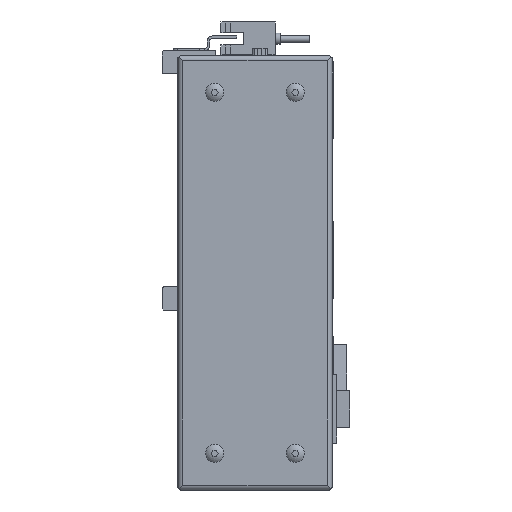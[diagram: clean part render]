
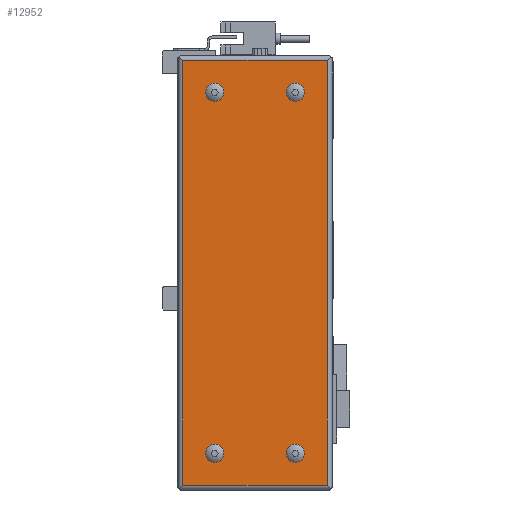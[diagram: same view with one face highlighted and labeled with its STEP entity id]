
A CAD part, left-side view. The second image highlights one B-rep face of the part: STEP entity #12952.
In plain terms, the highlighted planar face has unit normal (-1, 0, 0).
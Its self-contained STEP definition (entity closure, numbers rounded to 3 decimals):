
#355=PLANE('',#13892);
#1101=LINE('',#19679,#2424);
#1102=LINE('',#19682,#2425);
#1103=LINE('',#19684,#2426);
#1104=LINE('',#19686,#2427);
#2424=VECTOR('',#15835,1000.);
#2425=VECTOR('',#15836,1000.);
#2426=VECTOR('',#15837,1000.);
#2427=VECTOR('',#15838,1000.);
#4322=ORIENTED_EDGE('',*,*,#7563,.F.);
#4323=ORIENTED_EDGE('',*,*,#7564,.F.);
#4324=ORIENTED_EDGE('',*,*,#7565,.F.);
#4325=ORIENTED_EDGE('',*,*,#7566,.F.);
#4326=ORIENTED_EDGE('',*,*,#7567,.F.);
#4327=ORIENTED_EDGE('',*,*,#7568,.F.);
#4328=ORIENTED_EDGE('',*,*,#7569,.T.);
#4329=ORIENTED_EDGE('',*,*,#7570,.T.);
#7563=EDGE_CURVE('',#9275,#9275,#10317,.F.);
#7564=EDGE_CURVE('',#9276,#9276,#10318,.F.);
#7565=EDGE_CURVE('',#9277,#9277,#10319,.F.);
#7566=EDGE_CURVE('',#9278,#9278,#10320,.F.);
#7567=EDGE_CURVE('',#9279,#9280,#1101,.T.);
#7568=EDGE_CURVE('',#9281,#9279,#1102,.T.);
#7569=EDGE_CURVE('',#9281,#9282,#1103,.T.);
#7570=EDGE_CURVE('',#9282,#9280,#1104,.T.);
#9275=VERTEX_POINT('',#19672);
#9276=VERTEX_POINT('',#19674);
#9277=VERTEX_POINT('',#19676);
#9278=VERTEX_POINT('',#19678);
#9279=VERTEX_POINT('',#19680);
#9280=VERTEX_POINT('',#19681);
#9281=VERTEX_POINT('',#19683);
#9282=VERTEX_POINT('',#19685);
#10317=CIRCLE('',#13893,3.7);
#10318=CIRCLE('',#13894,3.7);
#10319=CIRCLE('',#13895,3.7);
#10320=CIRCLE('',#13896,3.7);
#10881=EDGE_LOOP('',(#4322));
#10882=EDGE_LOOP('',(#4323));
#10883=EDGE_LOOP('',(#4324));
#10884=EDGE_LOOP('',(#4325));
#10885=EDGE_LOOP('',(#4326,#4327,#4328,#4329));
#11842=FACE_BOUND('',#10881,.T.);
#11843=FACE_BOUND('',#10882,.T.);
#11844=FACE_BOUND('',#10883,.T.);
#11845=FACE_BOUND('',#10884,.T.);
#11846=FACE_BOUND('',#10885,.T.);
#12952=ADVANCED_FACE('',(#11842,#11843,#11844,#11845,#11846),#355,.F.);
#13892=AXIS2_PLACEMENT_3D('',#19670,#15825,#15826);
#13893=AXIS2_PLACEMENT_3D('',#19671,#15827,#15828);
#13894=AXIS2_PLACEMENT_3D('',#19673,#15829,#15830);
#13895=AXIS2_PLACEMENT_3D('',#19675,#15831,#15832);
#13896=AXIS2_PLACEMENT_3D('',#19677,#15833,#15834);
#15825=DIRECTION('',(1.,0.,0.));
#15826=DIRECTION('',(0.,0.,-1.));
#15827=DIRECTION('',(1.,0.,0.));
#15828=DIRECTION('',(0.,0.,-1.));
#15829=DIRECTION('',(1.,0.,0.));
#15830=DIRECTION('',(0.,0.,-1.));
#15831=DIRECTION('',(1.,0.,0.));
#15832=DIRECTION('',(0.,0.,-1.));
#15833=DIRECTION('',(1.,0.,0.));
#15834=DIRECTION('',(0.,0.,-1.));
#15835=DIRECTION('',(0.,0.,-1.));
#15836=DIRECTION('',(0.,-1.,0.));
#15837=DIRECTION('',(0.,0.,-1.));
#15838=DIRECTION('',(0.,-1.,0.));
#19670=CARTESIAN_POINT('',(-52.,0.,0.));
#19671=CARTESIAN_POINT('',(-52.,48.5,-111.5));
#19672=CARTESIAN_POINT('',(-52.,48.5,-115.2));
#19673=CARTESIAN_POINT('',(-52.,15.5,36.));
#19674=CARTESIAN_POINT('',(-52.,15.5,32.3));
#19675=CARTESIAN_POINT('',(-52.,15.5,-111.5));
#19676=CARTESIAN_POINT('',(-52.,15.5,-115.2));
#19677=CARTESIAN_POINT('',(-52.,48.5,36.));
#19678=CARTESIAN_POINT('',(-52.,48.5,32.3));
#19679=CARTESIAN_POINT('',(-52.,2.5,177.5));
#19680=CARTESIAN_POINT('',(-52.,2.5,49.));
#19681=CARTESIAN_POINT('',(-52.,2.5,-124.5));
#19682=CARTESIAN_POINT('',(-52.,177.5,49.));
#19683=CARTESIAN_POINT('',(-52.,61.5,49.));
#19684=CARTESIAN_POINT('',(-52.,61.5,177.5));
#19685=CARTESIAN_POINT('',(-52.,61.5,-124.5));
#19686=CARTESIAN_POINT('',(-52.,177.5,-124.5));
